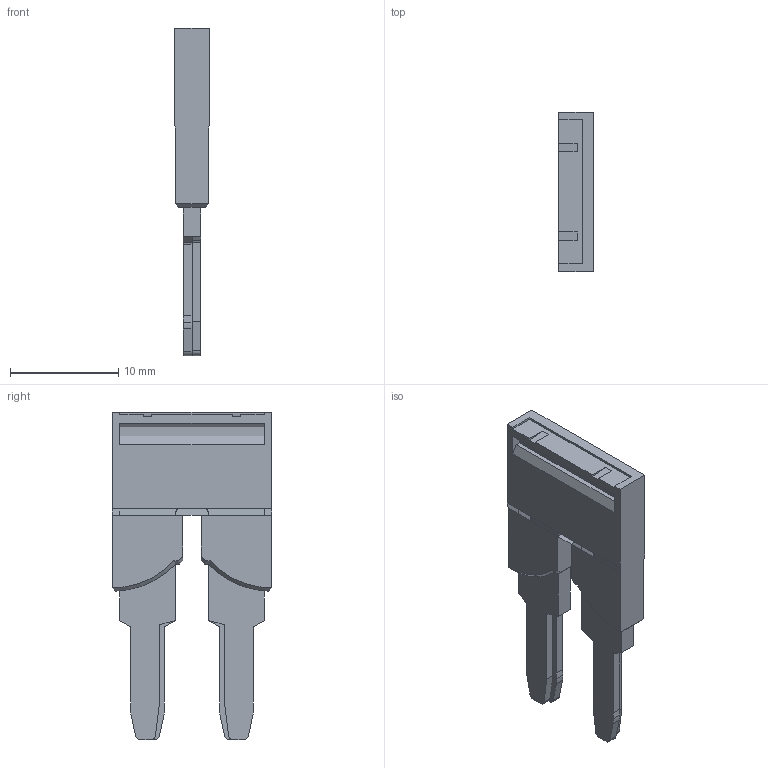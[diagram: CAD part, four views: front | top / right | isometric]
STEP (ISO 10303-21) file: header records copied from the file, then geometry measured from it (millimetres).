
FILE_DESCRIPTION(('Open CASCADE Model'),'2;1');
FILE_NAME('Open CASCADE Shape Model','2022-10-26T16:28:40',('Author'),( 'Open CASCADE'),'Open CASCADE STEP processor 6.5','Open CASCADE 6.5' ,'Unknown');
FILE_SCHEMA(('AUTOMOTIVE_DESIGN { 1 0 10303 214 1 1 1 1 }'));
Length unit declared in the file: millimetre
Products named in the file (146): CADSOFTTOOLS 7; CADSOFTTOOLS 7.1; CADSOFTTOOLS 7.2; CADSOFTTOOLS 7.3; CADSOFTTOOLS 7.4; CADSOFTTOOLS 7.5; CADSOFTTOOLS 7.6; CADSOFTTOOLS 7.7; CADSOFTTOOLS 7.8; CADSOFTTOOLS 7.9; CADSOFTTOOLS 7.10; CADSOFTTOOLS 7.11; CADSOFTTOOLS 7.12; CADSOFTTOOLS 7.13; CADSOFTTOOLS 7.14; CADSOFTTOOLS 7.15; CADSOFTTOOLS 7.16; CADSOFTTOOLS 7.17; CADSOFTTOOLS 7.18; CADSOFTTOOLS 7.19; CADSOFTTOOLS 7.20; CADSOFTTOOLS 7.21; CADSOFTTOOLS 7.22; CADSOFTTOOLS 7.23; CADSOFTTOOLS 7.24; CADSOFTTOOLS 7.25; CADSOFTTOOLS 7.26; CADSOFTTOOLS 7.27; CADSOFTTOOLS 7.28; CADSOFTTOOLS 7.29; CADSOFTTOOLS 7.30; CADSOFTTOOLS 7.31; CADSOFTTOOLS 7.32; CADSOFTTOOLS 7.33; CADSOFTTOOLS 7.34; CADSOFTTOOLS 7.35; CADSOFTTOOLS 7.36; CADSOFTTOOLS 7.37; CADSOFTTOOLS 7.38; CADSOFTTOOLS 7.39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
Assembly tree (145 placements, depth 2):
  CADSOFTTOOLS 7
    CADSOFTTOOLS 7.1
    CADSOFTTOOLS 7.2
    CADSOFTTOOLS 7.3
    CADSOFTTOOLS 7.4
    CADSOFTTOOLS 7.5
    CADSOFTTOOLS 7.6
    CADSOFTTOOLS 7.7
    CADSOFTTOOLS 7.8
    CADSOFTTOOLS 7.9
    CADSOFTTOOLS 7.10
    CADSOFTTOOLS 7.11
    CADSOFTTOOLS 7.12
    CADSOFTTOOLS 7.13
    CADSOFTTOOLS 7.14
    CADSOFTTOOLS 7.15
    CADSOFTTOOLS 7.16
    CADSOFTTOOLS 7.17
    CADSOFTTOOLS 7.18
    CADSOFTTOOLS 7.19
    CADSOFTTOOLS 7.20
    CADSOFTTOOLS 7.21
    CADSOFTTOOLS 7.22
    CADSOFTTOOLS 7.23
    CADSOFTTOOLS 7.24
    CADSOFTTOOLS 7.25
    CADSOFTTOOLS 7.26
    CADSOFTTOOLS 7.27
    CADSOFTTOOLS 7.28
    CADSOFTTOOLS 7.29
    CADSOFTTOOLS 7.30
    CADSOFTTOOLS 7.31
    CADSOFTTOOLS 7.32
    CADSOFTTOOLS 7.33
    CADSOFTTOOLS 7.34
    CADSOFTTOOLS 7.35
    CADSOFTTOOLS 7.36
    CADSOFTTOOLS 7.37
    CADSOFTTOOLS 7.38
    CADSOFTTOOLS 7.39
    CADSOFTTOOLS 7.40
    CADSOFTTOOLS 7.41
    CADSOFTTOOLS 7.42
    CADSOFTTOOLS 7.43
    CADSOFTTOOLS 7.44
    CADSOFTTOOLS 7.45
    CADSOFTTOOLS 7.46
    CADSOFTTOOLS 7.47
    CADSOFTTOOLS 7.48
    CADSOFTTOOLS 7.49
    CADSOFTTOOLS 7.50
    CADSOFTTOOLS 7.51
    CADSOFTTOOLS 7.52
    CADSOFTTOOLS 7.53
    CADSOFTTOOLS 7.54
    CADSOFTTOOLS 7.55
    CADSOFTTOOLS 7.56
    CADSOFTTOOLS 7.57
    CADSOFTTOOLS 7.58
    CADSOFTTOOLS 7.59
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Bounding box: 3.2 x 14.7 x 30.2 mm (x, y, z)
Surface area: 1066.8 mm2 (no closed solid volume)
Topology: 0 solids, 145 shells, 145 faces, 840 edges, 840 vertices
Faces by surface type: plane 113, cylinder 28, cone 4
Entity records: 17308 total; most frequent: CARTESIAN_POINT 3780, DIRECTION 2177, LINE 1296, VECTOR 1296, ORIENTED_EDGE 840, EDGE_CURVE 840, VERTEX_POINT 840, SURFACE_CURVE 840
